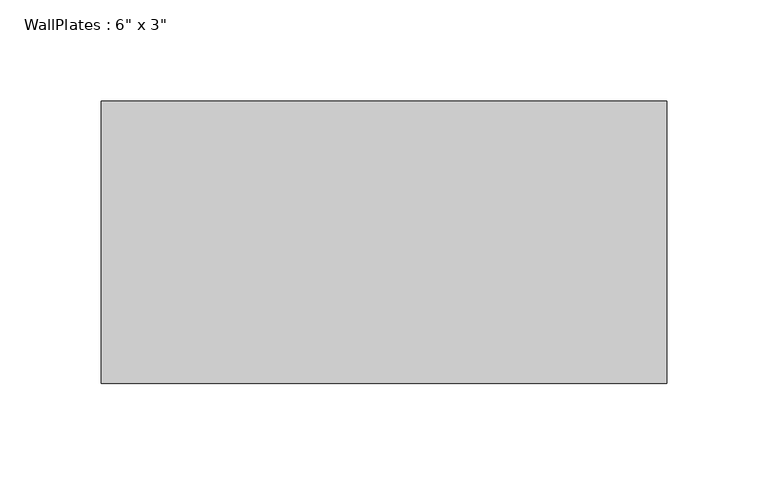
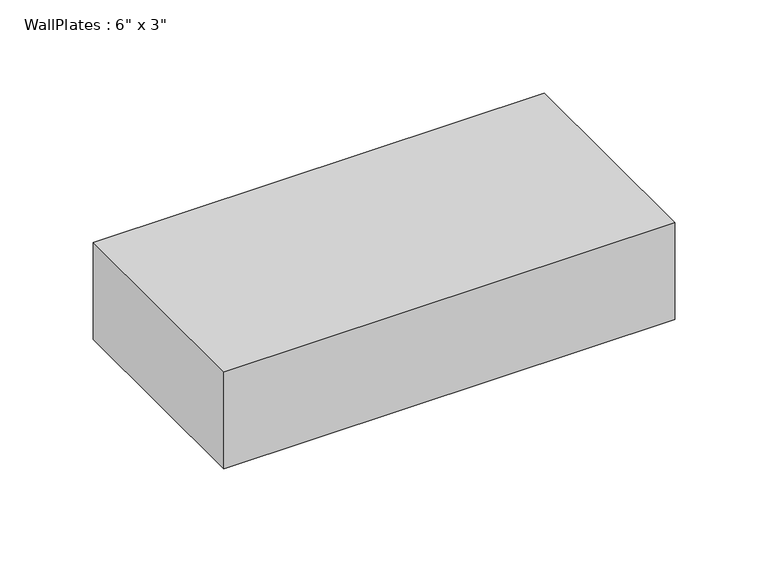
"""IFC4 building model written with IfcOpenShell, lengths in millimetres: beam geometry."""

from ifc_helpers import new_model, si_unit, frame, origin, place, context, project, spatial, polyline, outline, extrude, source, transform, mapped, element, save


def beam_34389604(model_context):
    return source(origin(), model_context, "Body", "SweptSolid", [
        extrude(outline(polyline([(-139.7, -69.85), (-139.7, 69.85), (139.7, 69.85), (139.7, -69.85), (-139.7, -69.85)])), frame((0.0, 0.0, -31.75), z_axis=(0.0, 0.0, 1.0), x_axis=(1.0, 0.0, 0.0)), (0.0, 0.0, 1.0), 63.5),
    ])


if __name__ == "__main__":
    model = new_model("IFC4")
    model_context = context("Model", 3, world=origin())
    ifc_project = project(units=[si_unit("LENGTHUNIT", "METRE", prefix="MILLI")], contexts=[model_context])
    site = spatial("IfcSite", under=ifc_project)
    building = spatial("IfcBuilding", under=site)
    placement = place(None, origin())
    beam_shape = beam_34389604(model_context)
    element("IfcBeam", 1, ObjectType="WallPlates : 6\" x 3\"", at=placement, inside=building, context=model_context, shape_type="MappedRepresentation", body=[
        mapped(beam_shape, transform((0.0, 0.0, 0.0), x_axis=(1.0, 0.0, 0.0), y_axis=(0.0, 1.0, 0.0), z_axis=(0.0, 0.0, 1.0))),
    ])
    save(model, "model.ifc")
